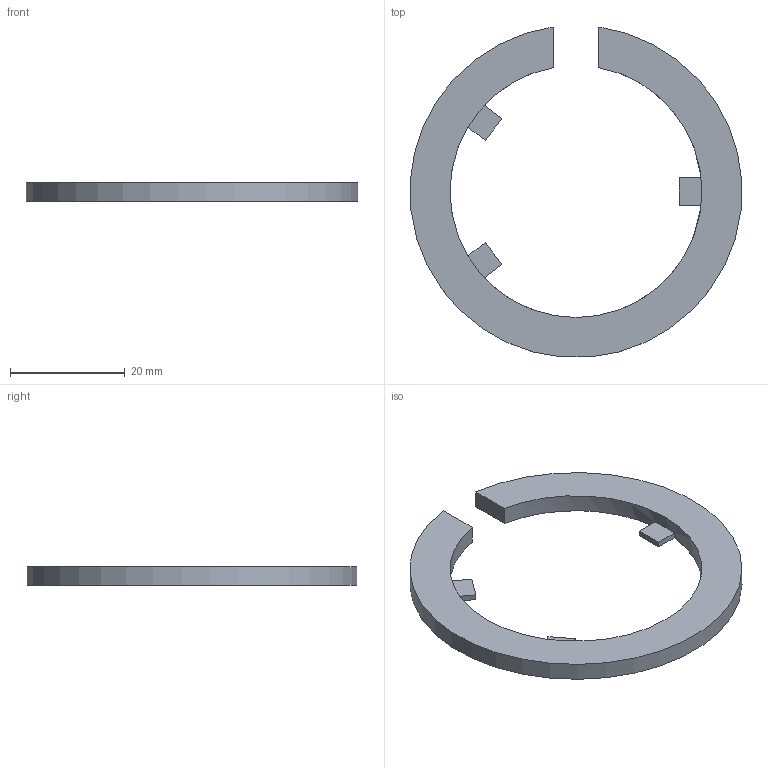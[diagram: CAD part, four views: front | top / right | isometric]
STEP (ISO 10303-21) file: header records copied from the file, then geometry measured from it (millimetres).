
FILE_DESCRIPTION(('Open CASCADE Model'),'2;1');
FILE_NAME('Open CASCADE Shape Model','2026-11-10T13:49:23',('Author'),( 'Open CASCADE'),'Open CASCADE STEP processor 7.9','Open CASCADE 7.9' ,'Unknown');
FILE_SCHEMA(('AUTOMOTIVE_DESIGN { 1 0 10303 214 1 1 1 1 }'));
Length unit declared in the file: millimetre
Products named in the file (2): fit-ring-model; fit-ring
Assembly tree (1 placements, depth 2):
  fit-ring-model
    fit-ring
Bounding box: 57.9 x 57.62 x 3.2 mm (x, y, z)
Volume: 3466 mm3; surface area: 3287.1 mm2
Topology: 1 solids, 1 shells, 18 faces, 48 edges, 32 vertices
Faces by surface type: plane 16, cylinder 2
Entity records: 1208 total; most frequent: CARTESIAN_POINT 256, DIRECTION 159, ORIENTED_EDGE 96, PCURVE 96, DEFINITIONAL_REPRESENTATION 96, LINE 94, VECTOR 94, EDGE_CURVE 48
